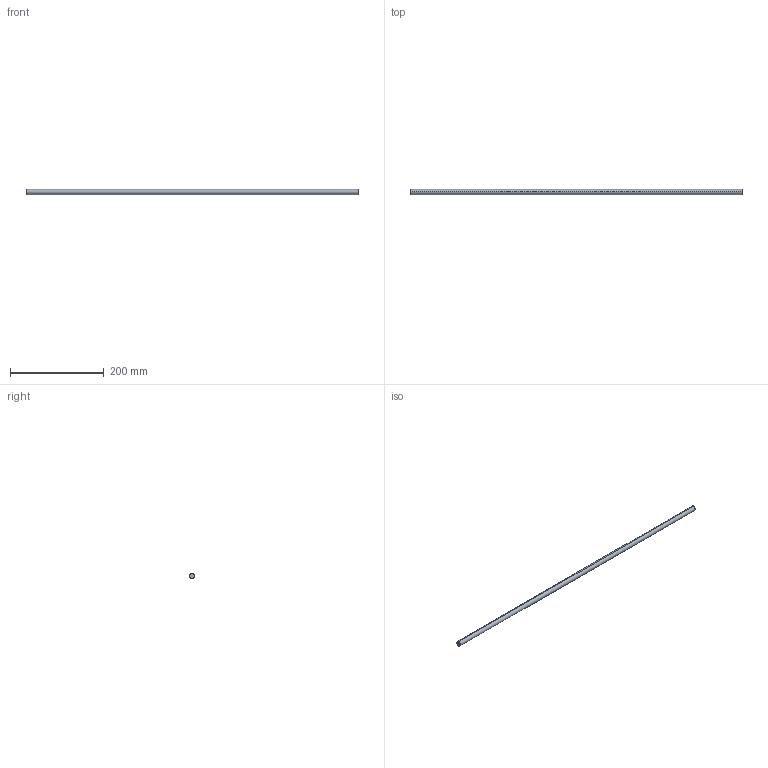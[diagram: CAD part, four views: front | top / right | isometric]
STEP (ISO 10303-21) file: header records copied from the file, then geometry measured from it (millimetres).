
FILE_DESCRIPTION (( 'STEP AP214' ), '1' );
FILE_NAME ('Querreling_Frontblende_Innenlade_KS19_KAB-800.step', '2010-09-22T15:05:35', ( 'grass' ), ( '' ), 'SwSTEP 2.0', 'SolidWorks 2010', '' );
FILE_SCHEMA (( 'AUTOMOTIVE_DESIGN' ));
Length unit declared in the file: millimetre
Products named in the file (1): Querreling_Frontblende_Innenlade_KS19_KAB-800
Bounding box: 709 x 11 x 11 mm (x, y, z)
Volume: 67378.5 mm3; surface area: 24691.3 mm2
Topology: 1 solids, 1 shells, 4 faces, 6 edges, 4 vertices
Faces by surface type: cylinder 2, plane 2
Entity records: 128 total; most frequent: DIRECTION 20, CARTESIAN_POINT 15, ORIENTED_EDGE 12, AXIS2_PLACEMENT_3D 9, EDGE_CURVE 6, CIRCLE 4, FACE_OUTER_BOUND 4, VERTEX_POINT 4
